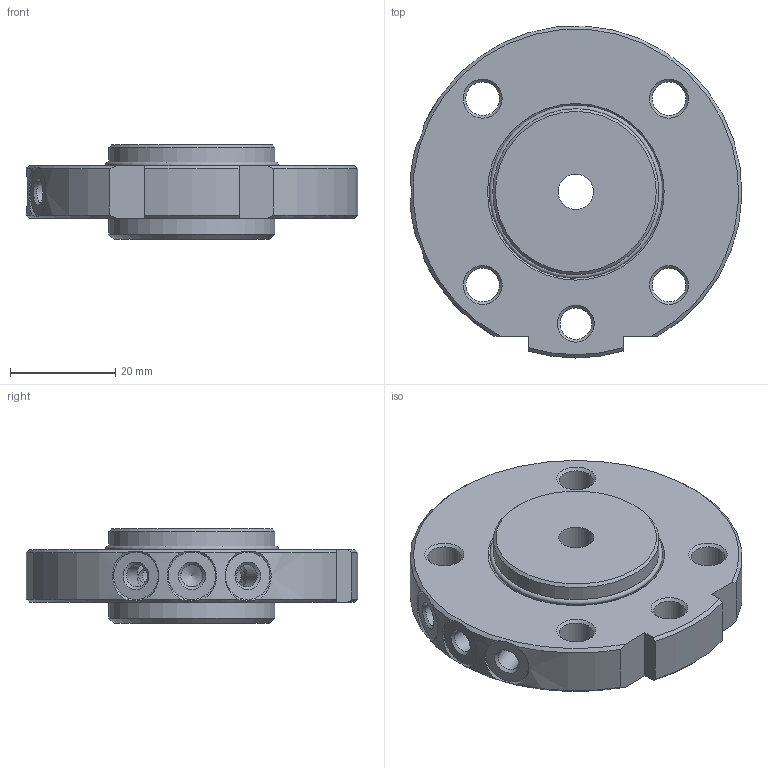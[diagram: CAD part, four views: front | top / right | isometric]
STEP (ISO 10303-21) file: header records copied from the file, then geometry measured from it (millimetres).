
FILE_DESCRIPTION(/* description */ (''),/* implementation_level */ '2;1');
FILE_NAME(/* name */ 'G-ZS063-S3P_Rev.1.01.stp',/* time_stamp */ '2024-08-29T15:22:06+02:00',/* author */ ('ysplieth'),/* organization */ (''),/* preprocessor_version */ 'ST-DEVELOPER v20',/* originating_system */ 'Autodesk Inventor 2024',/* authorisation */ '');
FILE_SCHEMA (('AUTOMOTIVE_DESIGN { 1 0 10303 214 3 1 1 }'));
Length unit declared in the file: millimetre
Products named in the file (1): Bauteil3
Bounding box: 62.91 x 62.96 x 17.95 mm (x, y, z)
Volume: 31166.9 mm3; surface area: 12116.8 mm2
Topology: 2 solids, 2 shells, 83 faces, 216 edges, 135 vertices
Faces by surface type: cone 35, cylinder 32, plane 15, torus 1
Full cylindrical faces by diameter (mm): 4.2 x9, 6 x1, 6.4 x4, 6.75 x1, 20 x1, 30.3 x1, 31.5 x4
Entity records: 2838 total; most frequent: CARTESIAN_POINT 614, DIRECTION 462, ORIENTED_EDGE 420, EDGE_CURVE 210, AXIS2_PLACEMENT_3D 198, VERTEX_POINT 135, EDGE_LOOP 107, CIRCLE 93
